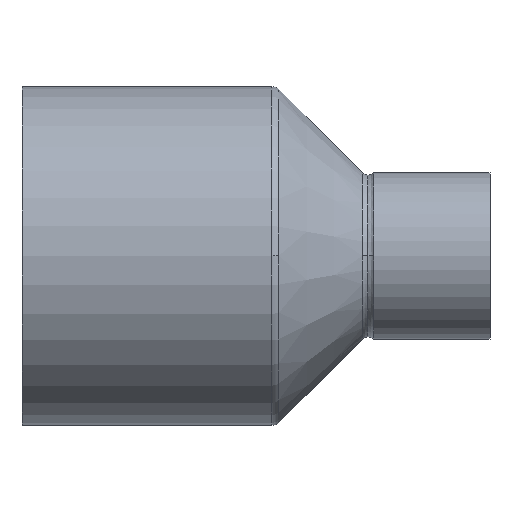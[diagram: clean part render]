
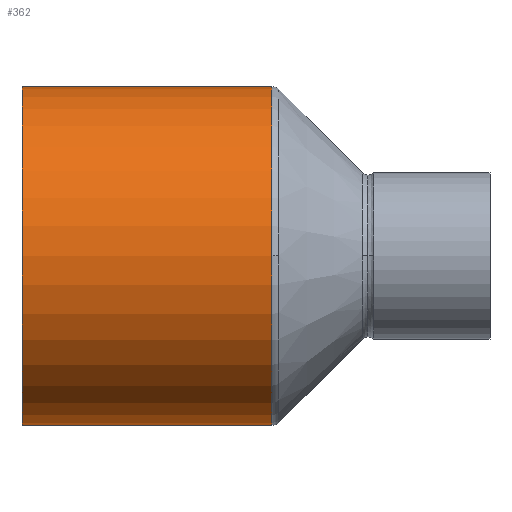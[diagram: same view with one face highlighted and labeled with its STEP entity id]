
A CAD part, top view. The second image highlights one B-rep face of the part: STEP entity #362.
In plain terms, the highlighted cylindrical face has radius 21 mm (diameter 42 mm), a partial arc.
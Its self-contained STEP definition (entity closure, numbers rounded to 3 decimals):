
#312=CARTESIAN_POINT('',(15.475,0.0,0.0));
#313=DIRECTION('',(1.0,0.0,0.0));
#314=DIRECTION('',(0.0,1.0,0.0));
#315=AXIS2_PLACEMENT_3D('',#312,#313,#314);
#316=CYLINDRICAL_SURFACE('',#315,21.0);
#317=CARTESIAN_POINT('',(0.,21.,0.0));
#318=VERTEX_POINT('',#317);
#319=CARTESIAN_POINT('',(30.951,21.,0.0));
#320=VERTEX_POINT('',#319);
#321=CARTESIAN_POINT('',(0.,21.,0.0));
#322=DIRECTION('',(1.0,0.0,0.0));
#323=VECTOR('',#322,30.951);
#324=LINE('',#321,#323);
#325=EDGE_CURVE('',#318,#320,#324,.T.);
#326=ORIENTED_EDGE('',*,*,#325,.F.);
#327=CARTESIAN_POINT('',(0.,-21.,0.));
#328=VERTEX_POINT('',#327);
#329=CARTESIAN_POINT('',(0.,0.0,0.0));
#330=DIRECTION('',(1.0,0.0,0.0));
#331=DIRECTION('',(0.0,1.0,0.0));
#332=AXIS2_PLACEMENT_3D('',#329,#330,#331);
#333=CIRCLE('',#332,21.);
#334=EDGE_CURVE('',#318,#328,#333,.T.);
#335=ORIENTED_EDGE('',*,*,#334,.T.);
#336=CARTESIAN_POINT('',(30.951,-21.,0.));
#337=VERTEX_POINT('',#336);
#338=CARTESIAN_POINT('',(30.951,-21.,0.));
#339=DIRECTION('',(-1.0,0.0,0.0));
#340=VECTOR('',#339,30.951);
#341=LINE('',#338,#340);
#342=EDGE_CURVE('',#337,#328,#341,.T.);
#343=ORIENTED_EDGE('',*,*,#342,.F.);
#344=CARTESIAN_POINT('',(30.951,0.,21.));
#345=VERTEX_POINT('',#344);
#346=CARTESIAN_POINT('',(30.951,0.0,0.0));
#347=DIRECTION('',(1.0,0.0,0.0));
#348=DIRECTION('',(0.0,1.0,0.0));
#349=AXIS2_PLACEMENT_3D('',#346,#347,#348);
#350=CIRCLE('',#349,21.);
#351=EDGE_CURVE('',#345,#337,#350,.T.);
#352=ORIENTED_EDGE('',*,*,#351,.F.);
#353=CARTESIAN_POINT('',(30.951,0.0,0.0));
#354=DIRECTION('',(1.0,0.0,0.0));
#355=DIRECTION('',(0.0,1.0,0.0));
#356=AXIS2_PLACEMENT_3D('',#353,#354,#355);
#357=CIRCLE('',#356,21.);
#358=EDGE_CURVE('',#320,#345,#357,.T.);
#359=ORIENTED_EDGE('',*,*,#358,.F.);
#360=EDGE_LOOP('',(#326,#335,#343,#352,#359));
#361=FACE_OUTER_BOUND('',#360,.T.);
#362=ADVANCED_FACE('',(#361),#316,.T.);
